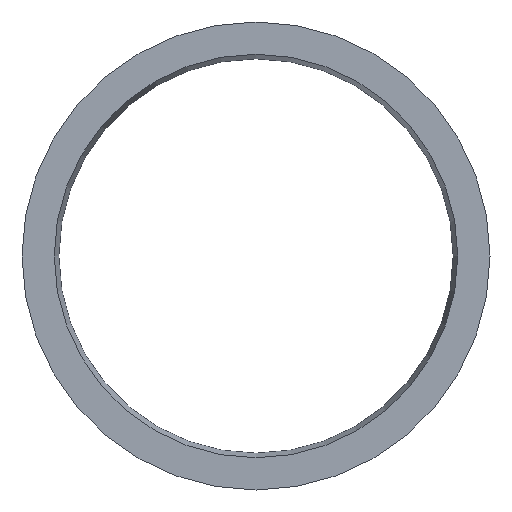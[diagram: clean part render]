
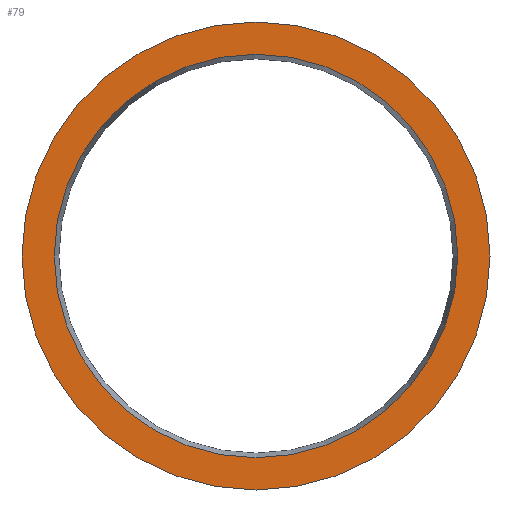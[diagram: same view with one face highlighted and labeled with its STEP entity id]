
A CAD part, front view. The second image highlights one B-rep face of the part: STEP entity #79.
In plain terms, the highlighted planar face has unit normal (0, -1, 0).
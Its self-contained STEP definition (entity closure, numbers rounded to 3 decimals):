
#79 = ADVANCED_FACE( '', ( #94, #95 ), #96, .T. );
#94 = FACE_OUTER_BOUND( '', #112, .T. );
#95 = FACE_BOUND( '', #113, .T. );
#96 = PLANE( '', #114 );
#112 = EDGE_LOOP( '', ( #138 ) );
#113 = EDGE_LOOP( '', ( #139 ) );
#114 = AXIS2_PLACEMENT_3D( '', #140, #141, #142 );
#138 = ORIENTED_EDGE( '', *, *, #153, .T. );
#139 = ORIENTED_EDGE( '', *, *, #152, .F. );
#140 = CARTESIAN_POINT( '', ( 15., 0., 0. ) );
#141 = DIRECTION( '', ( 0., -1., 0. ) );
#142 = DIRECTION( '', ( 0., 0., -1. ) );
#152 = EDGE_CURVE( '', #162, #162, #163, .T. );
#153 = EDGE_CURVE( '', #164, #164, #165, .T. );
#162 = VERTEX_POINT( '', #174 );
#163 = CIRCLE( '', #175, 15. );
#164 = VERTEX_POINT( '', #176 );
#165 = CIRCLE( '', #177, 17.4 );
#174 = CARTESIAN_POINT( '', ( 0., 0., -15. ) );
#175 = AXIS2_PLACEMENT_3D( '', #190, #191, #192 );
#176 = CARTESIAN_POINT( '', ( 0., 0., -17.4 ) );
#177 = AXIS2_PLACEMENT_3D( '', #193, #194, #195 );
#190 = CARTESIAN_POINT( '', ( 0., 0., 0. ) );
#191 = DIRECTION( '', ( 0., -1., 0. ) );
#192 = DIRECTION( '', ( 0., 0., -1. ) );
#193 = CARTESIAN_POINT( '', ( 0., 0., 0. ) );
#194 = DIRECTION( '', ( 0., -1., 0. ) );
#195 = DIRECTION( '', ( 0., 0., -1. ) );
